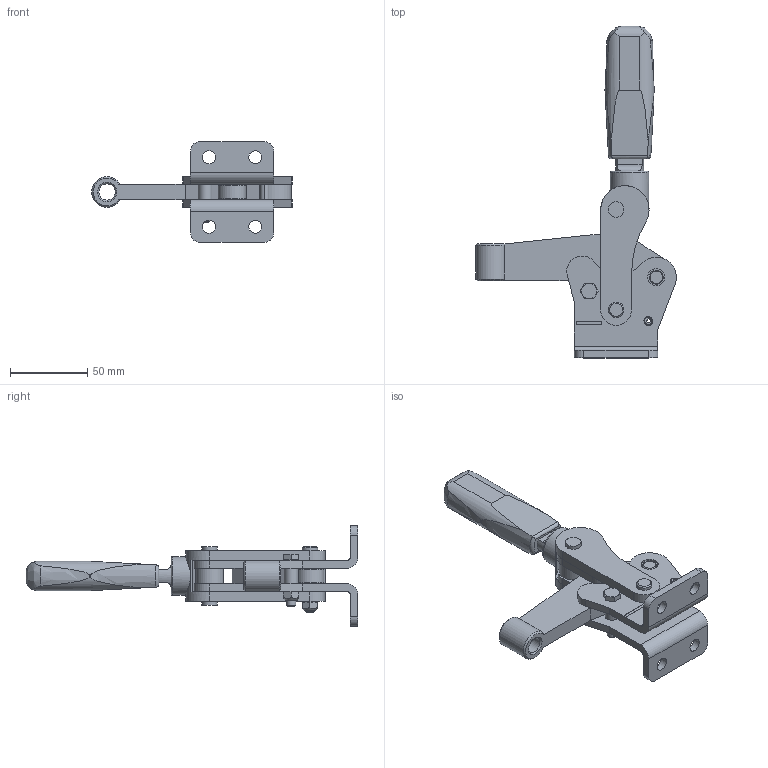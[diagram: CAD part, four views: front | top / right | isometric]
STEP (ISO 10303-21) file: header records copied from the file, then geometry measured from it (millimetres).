
FILE_DESCRIPTION( ( 'STEP AP203' ), '1' );
FILE_NAME( 'C:/Temp/Ganter_Step_05_03_2020/data/2_4/gn910/gn910_e/Toggle clamp GN 910-440-E (closed).stp', '2020-03-13T05:50:20', ( 'License CC BY-ND 4.0' ), ( 'CADENAS' ), ' ', 'PARTsolutions', ' ' );
FILE_SCHEMA( ( 'CONFIG_CONTROL_DESIGN' ) );
Length unit declared in the file: millimetre
Products named in the file (5): Toggle clamp GN 910-440-E (closed); _Toggle clamp GN 910-440-E-1; _Toggle clamp GN 910-440-E (0)-4; _Toggle clamp GN 910-440-E-2; _Toggle clamp GN 910-440-E (0)-3
Assembly tree (4 placements, depth 2):
  Toggle clamp GN 910-440-E (closed)
    _Toggle clamp GN 910-440-E-1
    _Toggle clamp GN 910-440-E (0)-4
    _Toggle clamp GN 910-440-E-2
    _Toggle clamp GN 910-440-E (0)-3
Bounding box: 129.99 x 215 x 65 mm (x, y, z)
Volume: 175288.6 mm3; surface area: 62573.8 mm2
Topology: 4 solids, 4 shells, 226 faces, 545 edges, 353 vertices
Faces by surface type: plane 104, cylinder 78, cone 39, torus 3, bspline 2
Full cylindrical faces by diameter (mm): 6 x2, 8.5 x4, 8.88 x2, 9 x3, 10 x10, 10.5 x1, 11 x5, 18 x2, 25 x1
Entity records: 7262 total; most frequent: CARTESIAN_POINT 1992, DIRECTION 1050, ORIENTED_EDGE 986, EDGE_CURVE 493, AXIS2_PLACEMENT_3D 413, VERTEX_POINT 343, EDGE_LOOP 326, FACE_OUTER_BOUND 257
